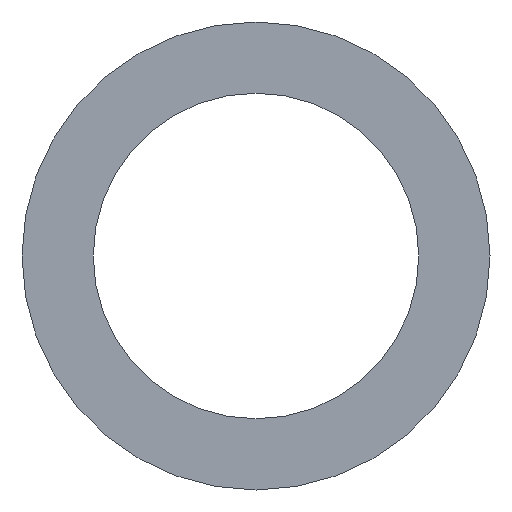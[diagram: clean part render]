
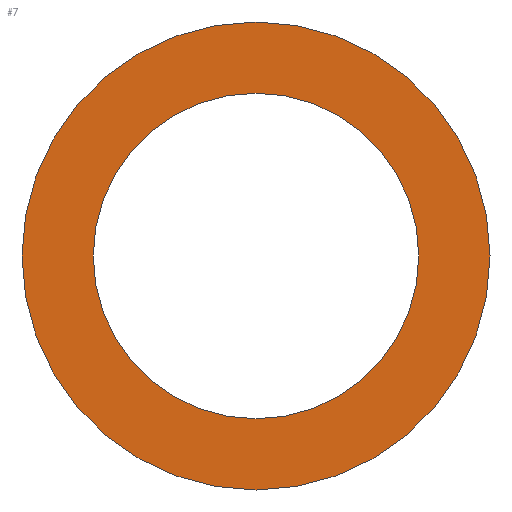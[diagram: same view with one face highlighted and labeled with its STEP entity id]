
A CAD part, front view. The second image highlights one B-rep face of the part: STEP entity #7.
In plain terms, the highlighted planar face has unit normal (0, -1, 0).
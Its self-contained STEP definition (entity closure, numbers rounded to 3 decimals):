
#1 = FACE_BOUND ( 'NONE', #110, .T. ) ;
#5 = CARTESIAN_POINT ( 'NONE',  ( 0., 0., 0. ) ) ;
#7 = ADVANCED_FACE ( 'NONE', ( #43, #1 ), #80, .F. ) ;
#8 = CIRCLE ( 'NONE', #104, 32. ) ;
#10 = EDGE_LOOP ( 'NONE', ( #109 ) ) ;
#13 = CARTESIAN_POINT ( 'NONE',  ( 0., 0., 32. ) ) ;
#26 = CARTESIAN_POINT ( 'NONE',  ( 0., 0., 0. ) ) ;
#28 = DIRECTION ( 'NONE',  ( 0., 0., 1. ) ) ;
#29 = DIRECTION ( 'NONE',  ( 0., 1., 0. ) ) ;
#31 = CARTESIAN_POINT ( 'NONE',  ( 0., 0., 0. ) ) ;
#36 = VERTEX_POINT ( 'NONE', #13 ) ;
#43 = FACE_OUTER_BOUND ( 'NONE', #10, .T. ) ;
#44 = DIRECTION ( 'NONE',  ( 0., 0., 1. ) ) ;
#47 = CIRCLE ( 'NONE', #87, 46. ) ;
#65 = EDGE_CURVE ( 'NONE', #102, #102, #47, .T. ) ;
#70 = AXIS2_PLACEMENT_3D ( 'NONE', #26, #78, #44 ) ;
#75 = CARTESIAN_POINT ( 'NONE',  ( 0., 0., 46. ) ) ;
#78 = DIRECTION ( 'NONE',  ( 0., 1., 0. ) ) ;
#80 = PLANE ( 'NONE',  #70 ) ;
#85 = EDGE_CURVE ( 'NONE', #36, #36, #8, .T. ) ;
#87 = AXIS2_PLACEMENT_3D ( 'NONE', #31, #93, #28 ) ;
#93 = DIRECTION ( 'NONE',  ( 0., 1., 0. ) ) ;
#102 = VERTEX_POINT ( 'NONE', #75 ) ;
#104 = AXIS2_PLACEMENT_3D ( 'NONE', #5, #29, #116 ) ;
#108 = ORIENTED_EDGE ( 'NONE', *, *, #85, .T. ) ;
#109 = ORIENTED_EDGE ( 'NONE', *, *, #65, .F. ) ;
#110 = EDGE_LOOP ( 'NONE', ( #108 ) ) ;
#116 = DIRECTION ( 'NONE',  ( 0., 0., 1. ) ) ;
